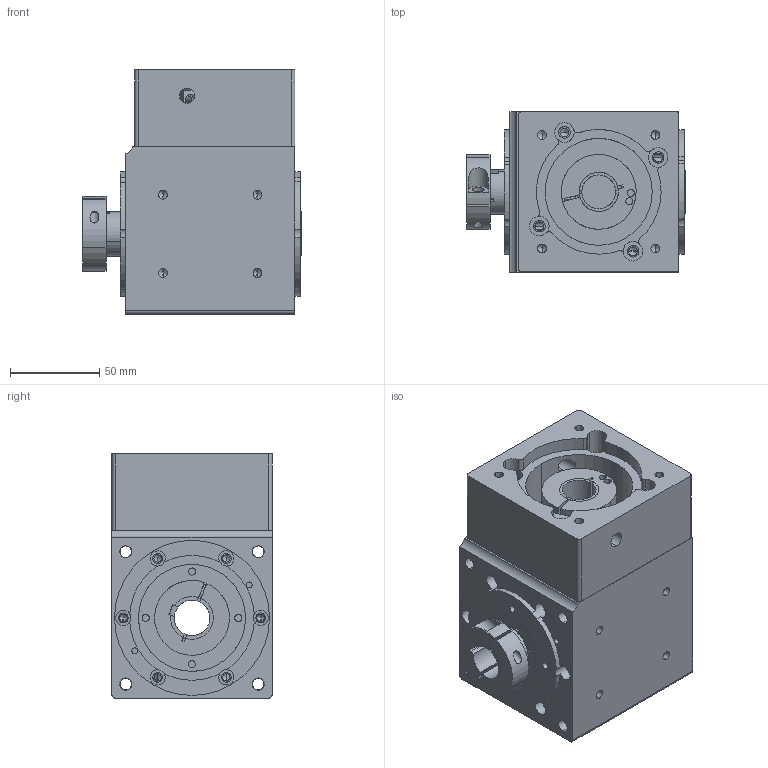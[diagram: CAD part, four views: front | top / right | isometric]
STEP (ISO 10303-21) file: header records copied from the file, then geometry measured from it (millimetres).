
FILE_DESCRIPTION (( 'STEP AP203' ), '1' );
FILE_NAME ('90单孔 （台达750W）.STEP', '2023-07-31T03:49:11', ( 'User' ), ( 'China' ), 'SwSTEP 2.0', 'SolidWorks 2015', '' );
FILE_SCHEMA (( 'CONFIG_CONTROL_DESIGN' ));
Length unit declared in the file: millimetre
Products named in the file (12): PVFD090蹟譫; PVFD090输入轴; PVFGB090怀堤粣; PVFDo9o眊极; PVFD090標杶2; PVFD090͹̨; 25-40-7蚐猾; deep groove ball bearings gb_Rolling bearings 6005 GB 276-94; 90单孔  （台达750W）; tapered roller bearings gb_Rolling bearings 32005 GB 297-94; PVFD090綴楊擘; PVFD090標杶
Assembly tree (15 placements, depth 2):
  90单孔  （台达750W）
    PVFDo9o眊极
    PVFD090͹̨  x2
    deep groove ball bearings gb_Rolling bearings 6005 GB 276-94  x2
    tapered roller bearings gb_Rolling bearings 32005 GB 297-94
    PVFD090綴楊擘
    PVFD090標杶
    PVFD090蹟譫  x2
    PVFD090输入轴
    PVFGB090怀堤粣
    PVFD090標杶2
    25-40-7蚐猾  x2
Bounding box: 122.5 x 90 x 137 mm (x, y, z)
Volume: 814564.1 mm3; surface area: 246339.7 mm2
Topology: 15 solids, 15 shells, 1002 faces, 3418 edges, 2226 vertices
Faces by surface type: cylinder 383, torus 224, plane 191, cone 128, sphere 76
Entity records: 33594 total; most frequent: CARTESIAN_POINT 10751, ORIENTED_EDGE 4806, DIRECTION 4374, EDGE_CURVE 2403, AXIS2_PLACEMENT_3D 1920, VERTEX_POINT 1581, CIRCLE 1120, EDGE_LOOP 956
